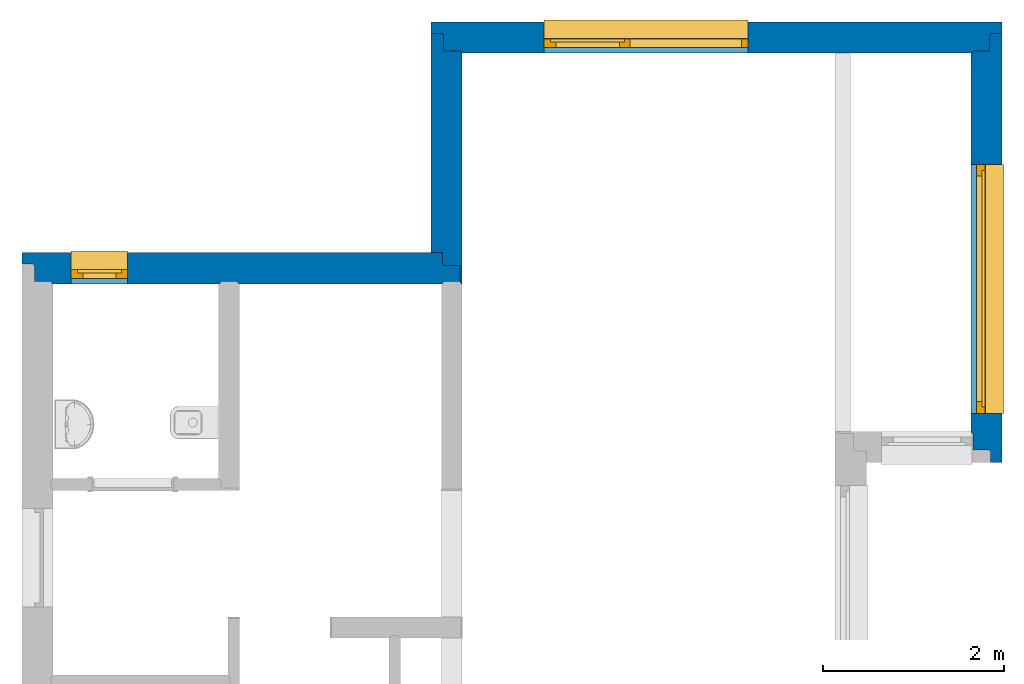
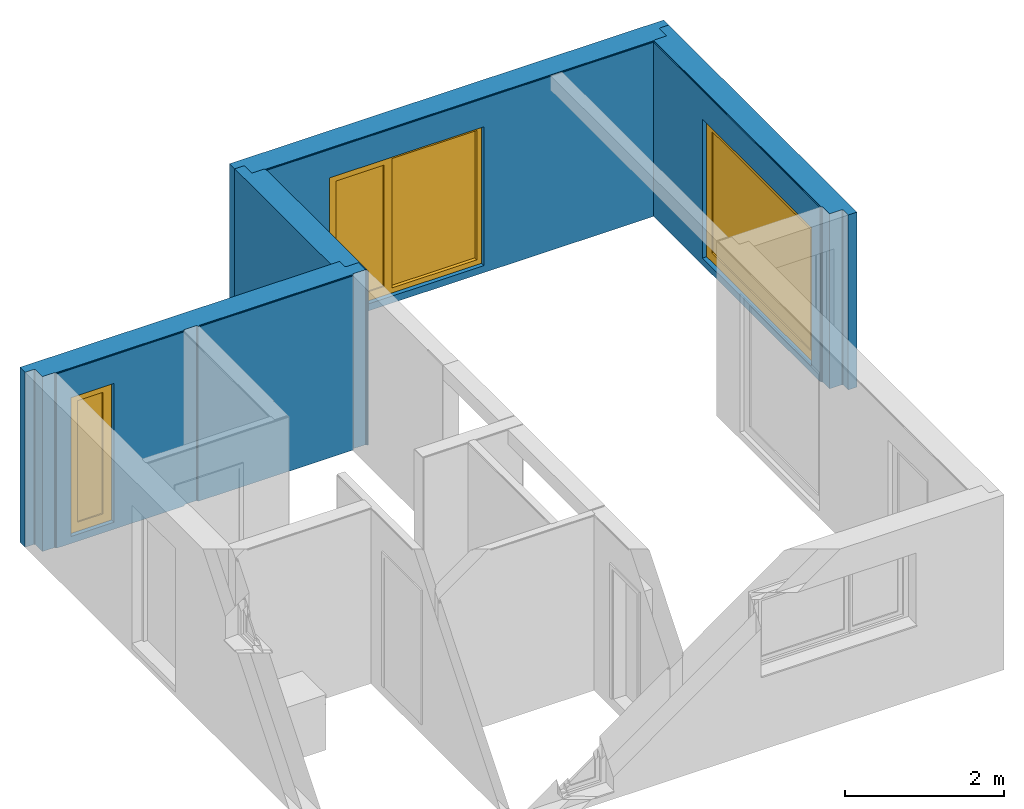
# One storey, part 5 of 6: 4 walls, 3 windows, 3 openings.
"""IFC2X3 building model written with IfcOpenShell, lengths in millimetres."""

from ifc_helpers import new_model, entity, si_unit, converted_unit, derived_unit, money_unit, direction, frame, origin_with_axes, place, context, subcontext, project, spatial, open_shell, faceted_brep, surface_model, material, material_list, type_object, element, fill, save


model = new_model("IFC2X3")

# Units and contexts
model_context = context("Model", 3, precision=0.01, world=origin_with_axes(), true_north=direction((0.0, 1.0)))
body_context = subcontext(model_context, "Body", "Model", "MODEL_VIEW")
ifc_project = project(units=[si_unit("LENGTHUNIT", "METRE", prefix="MILLI"), si_unit("AREAUNIT", "SQUARE_METRE"), si_unit("VOLUMEUNIT", "CUBIC_METRE"), converted_unit("PLANEANGLEUNIT", "DEGREE", entity("IfcPlaneAngleMeasure", 0.0174532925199), si_unit("PLANEANGLEUNIT", "RADIAN"), dimensions=[0, 0, 0, 0, 0, 0, 0]), si_unit("SOLIDANGLEUNIT", "STERADIAN"), money_unit("USD"), converted_unit("TIMEUNIT", "Year", entity("IfcTimeMeasure", 31556926.0), si_unit("TIMEUNIT", "SECOND"), dimensions=[0, 0, 1, 0, 0, 0, 0]), si_unit("MASSUNIT", "GRAM", prefix="KILO"), si_unit("THERMODYNAMICTEMPERATUREUNIT", "DEGREE_CELSIUS"), si_unit("LUMINOUSINTENSITYUNIT", "LUMEN"), si_unit("ENERGYUNIT", "JOULE", prefix="MEGA"), derived_unit("THERMALCONDUCTANCEUNIT", [(si_unit("POWERUNIT", "WATT"), 1), (si_unit("LENGTHUNIT", "METRE"), -1), (si_unit("THERMODYNAMICTEMPERATUREUNIT", "KELVIN"), -1)]), derived_unit("SPECIFICHEATCAPACITYUNIT", [(si_unit("ENERGYUNIT", "JOULE"), 1), (si_unit("MASSUNIT", "GRAM", prefix="KILO"), -1), (si_unit("THERMODYNAMICTEMPERATUREUNIT", "KELVIN"), -1)]), derived_unit("MASSDENSITYUNIT", [(si_unit("MASSUNIT", "GRAM", prefix="KILO"), 1), (si_unit("VOLUMEUNIT", "CUBIC_METRE"), -1)])], contexts=[model_context])

# Site, building, storey
site_placement = place(None, origin_with_axes())
site = spatial("IfcSite", under=ifc_project, at=site_placement, Name="Lokalizacja", CompositionType="ELEMENT")
building_placement = place(site_placement, origin_with_axes())
building = spatial("IfcBuilding", under=site, at=building_placement, Name="Budynek", CompositionType="ELEMENT")
storey_placement = place(building_placement, origin_with_axes())
storey = spatial("IfcBuildingStorey", under=building, at=storey_placement, Name="EG", CompositionType="ELEMENT", Elevation=0.0)

# Wall, opening, window
ifc_material_1 = material(Name="Płyty styropianowe miękkie")
ifc_material_2 = material(Name="Płyta OSB")
ifc_material_3 = material(Name="Drewno konstrukcyjne")
ifc_material_4 = material(Name="Płyta GK")
ifc_material_list_1 = material_list([ifc_material_1, ifc_material_2, ifc_material_3, ifc_material_2, ifc_material_4])
wall_type = type_object("IfcWallType", Name="002- _dan_SZ_345 345", PredefinedType="NOTDEFINED")
wall_1_placement = place(storey_placement, frame((10140.0, 2550.0, -160.0), z_axis=(0.0, 0.0, 1.0), x_axis=(0.0, -1.0, 0.0)))
wall_1 = element("IfcWall", 1, at=wall_1_placement, inside=storey, type_object=wall_type, material=ifc_material_list_1, Name="SZ1", context=body_context, shape_type="Brep", body=[
    faceted_brep([(4525.0, 345.0, 2690.0), (-217.0, 345.0, 2690.0), (-217.0, 217.0, 2690.0), (4525.0, 217.0, 2690.0), (4525.0, 345.0, 0.0), (-217.0, 345.0, 0.0), (-217.0, 217.0, 0.0), (4525.0, 217.0, 0.0)], [[[0, 1, 2, 3]], [[4, 5, 1, 0]], [[2, 1, 5, 6]], [[3, 2, 6, 7]], [[3, 7, 4, 0]], [[7, 6, 5, 4]]]),
    faceted_brep([(4397.0, 217.0, 2690.0), (-205.0, 217.0, 2690.0), (-205.0, 205.0, 2690.0), (4397.0, 205.0, 2690.0), (4397.0, 217.0, 0.0), (-205.0, 217.0, 0.0), (-205.0, 205.0, 0.0), (4397.0, 205.0, 0.0)], [[[0, 1, 2, 3]], [[4, 5, 1, 0]], [[2, 1, 5, 6]], [[3, 2, 6, 7]], [[3, 7, 4, 0]], [[7, 6, 5, 4]]]),
    faceted_brep([(4385.0, 205.0, 2690.0), (-25.0, 205.0, 2690.0), (-25.0, 25.0, 2690.0), (4385.0, 25.0, 2690.0), (4385.0, 205.0, 0.0), (-25.0, 205.0, 0.0), (-25.0, 25.0, 0.0), (4385.0, 25.0, 0.0)], [[[0, 1, 2, 3]], [[4, 5, 1, 0]], [[2, 1, 5, 6]], [[3, 2, 6, 7]], [[3, 7, 4, 0]], [[7, 6, 5, 4]]]),
    faceted_brep([(4205.0, 25.0, 2690.0), (-13.0, 25.0, 2690.0), (-13.0, 13.0, 2690.0), (4205.0, 13.0, 2690.0), (4205.0, 25.0, 0.0), (-13.0, 25.0, 0.0), (-13.0, 13.0, 0.0), (4205.0, 13.0, 0.0)], [[[0, 1, 2, 3]], [[4, 5, 1, 0]], [[2, 1, 5, 6]], [[3, 2, 6, 7]], [[3, 7, 4, 0]], [[7, 6, 5, 4]]]),
    faceted_brep([(0.0, 0.0, 2678.0), (0.0, 13.0, 2678.0), (0.0, 13.0, 0.0), (0.0, 0.0, 0.0), (4193.0, 13.0, 2678.0), (4193.0, 0.0, 2678.0), (4193.0, 13.0, 0.0), (4193.0, 0.0, 0.0)], [[[0, 1, 2, 3]], [[4, 1, 0, 5]], [[1, 4, 6, 2]], [[6, 7, 3, 2]], [[5, 0, 3, 7]], [[4, 5, 7, 6]]]),
])
opening_1_placement = place(wall_1_placement, frame((2605.0, 0.0, 107.0), z_axis=(0.0, 0.0, 1.0), x_axis=(1.0, 0.0, 0.0)))
opening_1 = element("IfcOpeningElement", 2, at=opening_1_placement, cuts=wall_1, context=body_context, shape_type="Brep", body=[
    faceted_brep([(-1375.0, 690.0, 2135.0), (-1375.0, 690.0, 0.0), (-1375.0, 157.0, 0.0), (-1375.0, 157.0, 2135.0), (1375.0, 690.0, 2135.0), (1375.0, 690.0, 0.0), (1375.0, 157.0, 0.0), (1375.0, 157.0, 2135.0)], [[[0, 1, 2, 3]], [[0, 4, 5, 1]], [[1, 5, 6, 2]], [[3, 2, 6, 7]], [[4, 0, 3, 7]], [[5, 4, 7, 6]]]),
    faceted_brep([(-1375.0, -345.0, 0.0), (-1375.0, -345.0, 2135.0), (-1375.0, 157.0, 2135.0), (-1375.0, 157.0, 0.0), (1375.0, -345.0, 0.0), (1375.0, -345.0, 2135.0), (1375.0, 157.0, 2135.0), (1375.0, 157.0, 0.0)], [[[0, 1, 2, 3]], [[0, 4, 5, 1]], [[1, 5, 6, 2]], [[3, 2, 6, 7]], [[4, 0, 3, 7]], [[5, 4, 7, 6]]]),
])
window_style_1 = type_object("IfcWindowStyle", Name="Okno 24", ConstructionType="NOTDEFINED", OperationType="SINGLE_PANEL", ParameterTakesPrecedence=False, Sizeable=False)
window_1_placement = place(opening_1_placement, frame((1365.0, 0.0, 0.0), z_axis=(0.0, 0.0, 1.0), x_axis=(-1.0, 0.0, 0.0)))
window_1 = element("IfcWindow", 3, at=window_1_placement, inside=storey, type_object=window_style_1, OverallHeight=2135.0, OverallWidth=2750.0, context=body_context, shape_type="SurfaceModel", body=[
    surface_model("IfcShellBasedSurfaceModel", [(-10.0, -158.0, 50.0), (-10.0, -158.0, 40.0), (2740.0, -158.0, 40.0), (2740.0, -158.0, 50.0), (-10.0, -365.0, 28.9361702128), (2740.0, -365.0, 28.9361702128), (-10.0, -365.0, 8.93617021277), (2740.0, -365.0, 8.93617021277), (-10.0, -355.0, 18.9361702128), (2740.0, -355.0, 18.9361702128)], [open_shell([[[0, 1, 2, 3]], [[1, 4, 5, 2]], [[4, 6, 7, 5]], [[6, 8, 9, 7]]])]),
    faceted_brep([(59.9, -61.0, 2065.0), (-10.0, -61.0, 2065.0), (-10.0, -157.0, 2065.0), (60.0, -157.0, 2065.0), (60.0, -121.0, 2065.0), (59.9, -121.0, 2065.0), (59.9, -61.0, 77.0), (-10.0, -61.0, 77.0), (-10.0, -157.0, 77.0), (60.0, -157.0, 77.0), (60.0, -121.0, 77.0), (59.9, -121.0, 77.0)], [[[0, 1, 2, 3, 4, 5]], [[6, 7, 1, 0]], [[1, 7, 8, 2]], [[2, 8, 9, 3]], [[4, 3, 9, 10]], [[10, 11, 5, 4]], [[5, 11, 6, 0]], [[11, 10, 9, 8, 7, 6]]]),
    faceted_brep([(2670.0, -121.0, 2065.0), (2670.0, -157.0, 2065.0), (2740.0, -157.0, 2065.0), (2740.0, -61.0, 2065.0), (2670.1, -61.0, 2065.0), (2670.1, -121.0, 2065.0), (2670.0, -121.0, 77.0), (2670.0, -157.0, 77.0), (2740.0, -157.0, 77.0), (2740.0, -61.0, 77.0), (2670.1, -61.0, 77.0), (2670.1, -121.0, 77.0)], [[[0, 1, 2, 3, 4, 5]], [[6, 7, 1, 0]], [[8, 2, 1, 7]], [[9, 3, 2, 8]], [[4, 3, 9, 10]], [[10, 11, 5, 4]], [[5, 11, 6, 0]], [[11, 10, 9, 8, 7, 6]]]),
    faceted_brep([(2670.0, -121.0, 77.0), (2670.0, -157.0, 77.0), (2740.0, -157.0, 77.0), (2740.0, -61.0, 77.0), (2670.1, -61.0, 77.0), (2670.1, -121.0, 77.0), (60.0, -121.0, 77.0), (60.0, -157.0, 77.0), (-10.0, -157.0, 77.0), (-10.0, -157.0, 0.0), (2740.0, -157.0, 0.0), (2740.0, -61.0, 0.0), (59.9, -61.0, 76.9), (2670.1, -61.0, 76.9), (-10.0, -61.0, 0.0), (-10.0, -61.0, 77.0), (59.9, -61.0, 77.0), (2670.1, -121.0, 76.9), (59.9, -121.0, 76.9), (59.9, -121.0, 77.0)], [[[0, 1, 2, 3, 4, 5]], [[6, 7, 1, 0]], [[8, 9, 10, 2, 1, 7]], [[11, 3, 2, 10]], [[12, 13, 4, 3, 11, 14, 15, 16]], [[13, 17, 5, 4]], [[5, 17, 18, 19, 6, 0]], [[19, 16, 15, 8, 7, 6]], [[15, 14, 9, 8]], [[14, 11, 10, 9]], [[12, 18, 17, 13]], [[19, 18, 12, 16]]]),
    faceted_brep([(59.9, -61.0, 2065.0), (-10.0, -61.0, 2065.0), (-10.0, -61.0, 2135.0), (2740.0, -61.0, 2135.0), (2740.0, -61.0, 2065.0), (2670.1, -61.0, 2065.0), (2670.1, -61.0, 2065.1), (59.9, -61.0, 2065.1), (59.9, -121.0, 2065.0), (60.0, -121.0, 2065.0), (60.0, -157.0, 2065.0), (-10.0, -157.0, 2065.0), (-10.0, -157.0, 2135.0), (2740.0, -157.0, 2135.0), (2740.0, -157.0, 2065.0), (2670.1, -121.0, 2065.0), (2670.0, -157.0, 2065.0), (2670.0, -121.0, 2065.0), (2670.1, -121.0, 2065.1), (59.9, -121.0, 2065.1)], [[[0, 1, 2, 3, 4, 5, 6, 7]], [[8, 9, 10, 11, 1, 0]], [[2, 1, 11, 12]], [[3, 2, 12, 13]], [[4, 3, 13, 14]], [[15, 5, 4, 14, 16, 17]], [[5, 15, 18, 6]], [[6, 18, 19, 7]], [[7, 19, 8, 0]], [[17, 9, 8, 19, 18, 15]], [[17, 16, 10, 9]], [[14, 13, 12, 11, 10, 16]]]),
    faceted_brep([(119.9, -121.0, 2005.1), (119.9, -61.0, 2005.1), (59.9, -61.0, 2005.1), (59.9, -121.0, 2005.1), (119.9, -121.0, 136.9), (119.9, -61.0, 136.9), (59.9, -61.0, 136.9), (59.9, -121.0, 136.9)], [[[0, 1, 2, 3]], [[4, 5, 1, 0]], [[1, 5, 6, 2]], [[3, 2, 6, 7]], [[0, 3, 7, 4]], [[7, 6, 5, 4]]]),
    faceted_brep([(2610.1, -121.0, 136.9), (2610.1, -61.0, 136.9), (2670.1, -61.0, 136.9), (2670.1, -121.0, 136.9), (2610.1, -121.0, 2005.1), (2610.1, -61.0, 2005.1), (2670.1, -61.0, 2005.1), (2670.1, -121.0, 2005.1)], [[[0, 1, 2, 3]], [[4, 5, 1, 0]], [[1, 5, 6, 2]], [[3, 2, 6, 7]], [[0, 3, 7, 4]], [[7, 6, 5, 4]]]),
    faceted_brep([(2670.1, -121.0, 76.9), (2670.1, -61.0, 76.9), (2670.1, -61.0, 136.9), (2670.1, -121.0, 136.9), (59.9, -121.0, 76.9), (59.9, -61.0, 76.9), (59.9, -61.0, 136.9), (119.9, -61.0, 136.9), (2610.1, -61.0, 136.9), (2610.1, -121.0, 136.9), (119.9, -121.0, 136.9), (59.9, -121.0, 136.9)], [[[0, 1, 2, 3]], [[4, 5, 1, 0]], [[1, 5, 6, 7, 8, 2]], [[3, 2, 8, 9]], [[0, 3, 9, 10, 11, 4]], [[11, 6, 5, 4]], [[10, 7, 6, 11]], [[9, 8, 7, 10]]]),
    faceted_brep([(59.9, -121.0, 2065.1), (59.9, -61.0, 2065.1), (59.9, -61.0, 2005.1), (59.9, -121.0, 2005.1), (2670.1, -121.0, 2065.1), (2670.1, -61.0, 2065.1), (2670.1, -61.0, 2005.1), (2610.1, -61.0, 2005.1), (119.9, -61.0, 2005.1), (119.9, -121.0, 2005.1), (2610.1, -121.0, 2005.1), (2670.1, -121.0, 2005.1)], [[[0, 1, 2, 3]], [[4, 5, 1, 0]], [[1, 5, 6, 7, 8, 2]], [[3, 2, 8, 9]], [[0, 3, 9, 10, 11, 4]], [[11, 6, 5, 4]], [[10, 7, 6, 11]], [[9, 8, 7, 10]]]),
    surface_model("IfcShellBasedSurfaceModel", [(119.9, -101.0, 136.9), (2610.1, -101.0, 136.9), (2610.1, -101.0, 2005.1), (119.9, -101.0, 2005.1)], [open_shell([[[0, 1, 2, 3]]])]),
    surface_model("IfcShellBasedSurfaceModel", [(119.9, -81.0, 136.9), (119.9, -81.0, 2005.1), (2610.1, -81.0, 2005.1), (2610.1, -81.0, 136.9)], [open_shell([[[0, 1, 2, 3]]])]),
])
fill(opening_1, window_1)

wall_2_placement = place(storey_placement, frame((4520.0, 2550.0, -160.0), z_axis=(0.0, 0.0, 1.0), x_axis=(1.0, 0.0, 0.0)))
wall_2 = element("IfcWall", 4, at=wall_2_placement, inside=storey, type_object=wall_type, material=ifc_material_list_1, Name="SZ1", context=body_context, shape_type="Brep", body=[
    faceted_brep([(5965.0, 345.0, 2690.0), (-345.0, 345.0, 2690.0), (-345.0, 217.0, 2690.0), (5965.0, 217.0, 2690.0), (5965.0, 345.0, 0.0), (-345.0, 345.0, 0.0), (-345.0, 217.0, 0.0), (5965.0, 217.0, 0.0)], [[[0, 1, 2, 3]], [[4, 5, 1, 0]], [[2, 1, 5, 6]], [[3, 2, 6, 7]], [[3, 7, 4, 0]], [[7, 6, 5, 4]]]),
    faceted_brep([(5837.0, 217.0, 2690.0), (-217.0, 217.0, 2690.0), (-217.0, 205.0, 2690.0), (5837.0, 205.0, 2690.0), (5837.0, 217.0, 0.0), (-217.0, 217.0, 0.0), (-217.0, 205.0, 0.0), (5837.0, 205.0, 0.0)], [[[0, 1, 2, 3]], [[4, 5, 1, 0]], [[2, 1, 5, 6]], [[3, 2, 6, 7]], [[3, 7, 4, 0]], [[7, 6, 5, 4]]]),
    faceted_brep([(5825.0, 205.0, 2690.0), (-205.0, 205.0, 2690.0), (-205.0, 25.0, 2690.0), (5825.0, 25.0, 2690.0), (5825.0, 205.0, 0.0), (-205.0, 205.0, 0.0), (-205.0, 25.0, 0.0), (5825.0, 25.0, 0.0)], [[[0, 1, 2, 3]], [[4, 5, 1, 0]], [[2, 1, 5, 6]], [[3, 2, 6, 7]], [[3, 7, 4, 0]], [[7, 6, 5, 4]]]),
    faceted_brep([(5645.0, 25.0, 2690.0), (-25.0, 25.0, 2690.0), (-25.0, 13.0, 2690.0), (5645.0, 13.0, 2690.0), (5645.0, 25.0, 0.0), (-25.0, 25.0, 0.0), (-25.0, 13.0, 0.0), (5645.0, 13.0, 0.0)], [[[0, 1, 2, 3]], [[4, 5, 1, 0]], [[2, 1, 5, 6]], [[3, 2, 6, 7]], [[3, 7, 4, 0]], [[7, 6, 5, 4]]]),
    faceted_brep([(-13.0, 13.0, 2678.0), (5633.0, 13.0, 2678.0), (5633.0, 13.0, 0.0), (-13.0, 13.0, 0.0), (5633.0, 0.0, 2678.0), (-13.0, 0.0, 2678.0), (5633.0, 0.0, 0.0), (-13.0, 0.0, 0.0)], [[[0, 1, 2, 3]], [[4, 1, 0, 5]], [[1, 4, 6, 2]], [[2, 6, 7, 3]], [[5, 0, 3, 7]], [[4, 5, 7, 6]]]),
])
opening_2_placement = place(wall_2_placement, frame((2030.0, 0.0, 107.0), z_axis=(0.0, 0.0, 1.0), x_axis=(1.0, 0.0, 0.0)))
opening_2 = element("IfcOpeningElement", 5, at=opening_2_placement, cuts=wall_2, context=body_context, shape_type="Brep", body=[
    faceted_brep([(1125.0, 157.0, 2135.0), (1125.0, 157.0, 0.0), (1125.0, 690.0, 0.0), (1125.0, 690.0, 2135.0), (-1125.0, 157.0, 2135.0), (-1125.0, 157.0, 0.0), (-1125.0, 690.0, 0.0), (-1125.0, 690.0, 2135.0)], [[[0, 1, 2, 3]], [[0, 4, 5, 1]], [[1, 5, 6, 2]], [[3, 2, 6, 7]], [[4, 0, 3, 7]], [[5, 4, 7, 6]]]),
    faceted_brep([(1125.0, 157.0, 0.0), (1125.0, 157.0, 2135.0), (1125.0, -345.0, 2135.0), (1125.0, -345.0, 0.0), (-1125.0, 157.0, 0.0), (-1125.0, 157.0, 2135.0), (-1125.0, -345.0, 2135.0), (-1125.0, -345.0, 0.0)], [[[0, 1, 2, 3]], [[0, 4, 5, 1]], [[1, 5, 6, 2]], [[3, 2, 6, 7]], [[4, 0, 3, 7]], [[5, 4, 7, 6]]]),
])
window_style_2 = type_object("IfcWindowStyle", Name="Okno podwójne 24", ConstructionType="NOTDEFINED", OperationType="DOUBLE_PANEL_VERTICAL", ParameterTakesPrecedence=False, Sizeable=False)
window_2_placement = place(opening_2_placement, frame((1115.0, 0.0, 0.0), z_axis=(0.0, 0.0, 1.0), x_axis=(-1.0, 0.0, 0.0)))
window_2 = element("IfcWindow", 6, at=window_2_placement, inside=storey, type_object=window_style_2, OverallHeight=2135.0, OverallWidth=2250.0, context=body_context, shape_type="SurfaceModel", body=[
    surface_model("IfcShellBasedSurfaceModel", [(2240.0, -158.0, 50.0), (-10.0, -158.0, 50.0), (-10.0, -158.0, 40.0), (2240.0, -158.0, 40.0), (-10.0, -365.0, 28.9361702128), (2240.0, -365.0, 28.9361702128), (-10.0, -365.0, 8.93617021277), (2240.0, -365.0, 8.93617021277), (-10.0, -355.0, 18.9361702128), (2240.0, -355.0, 18.9361702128)], [open_shell([[[0, 1, 2, 3]], [[3, 2, 4, 5]], [[5, 4, 6, 7]], [[7, 6, 8, 9]]])]),
    faceted_brep([(2170.1, -61.0, 2065.0), (2170.1, -121.0, 2065.0), (2170.0, -121.0, 2065.0), (2170.0, -157.0, 2065.0), (2240.0, -157.0, 2065.0), (2240.0, -61.0, 2065.0), (2170.1, -61.0, 77.0), (2170.1, -121.0, 77.0), (2170.0, -121.0, 77.0), (2170.0, -157.0, 77.0), (2240.0, -157.0, 77.0), (2240.0, -61.0, 77.0)], [[[0, 1, 2, 3, 4, 5]], [[1, 0, 6, 7]], [[8, 2, 1, 7]], [[2, 8, 9, 3]], [[4, 3, 9, 10]], [[5, 4, 10, 11]], [[6, 0, 5, 11]], [[7, 6, 11, 10, 9, 8]]]),
    faceted_brep([(1350.0, -121.0, 2065.0), (1349.9, -121.0, 2065.0), (1349.9, -61.0, 2065.0), (1290.0, -61.0, 2065.0), (1290.0, -157.0, 2065.0), (1350.0, -157.0, 2065.0), (1350.0, -121.0, 77.0), (1349.9, -121.0, 77.0), (1349.9, -61.0, 77.0), (1290.0, -61.0, 77.0), (1290.0, -157.0, 77.0), (1350.0, -157.0, 77.0)], [[[0, 1, 2, 3, 4, 5]], [[1, 0, 6, 7]], [[8, 2, 1, 7]], [[2, 8, 9, 3]], [[9, 10, 4, 3]], [[10, 11, 5, 4]], [[6, 0, 5, 11]], [[7, 6, 11, 10, 9, 8]]]),
    faceted_brep([(1350.0, -121.0, 77.0), (1349.9, -121.0, 77.0), (1349.9, -61.0, 77.0), (1290.0, -61.0, 77.0), (1290.0, -157.0, 77.0), (1350.0, -157.0, 77.0), (2170.0, -121.0, 77.0), (2170.1, -121.0, 77.0), (2170.1, -121.0, 76.9), (1349.9, -121.0, 76.9), (1349.9, -61.0, 76.9), (2170.1, -61.0, 76.9), (2170.1, -61.0, 77.0), (2240.0, -61.0, 77.0), (2240.0, -61.0, 0.0), (-10.0, -61.0, 0.0), (-10.0, -61.0, 77.0), (60.0, -61.0, 77.0), (60.0, -157.0, 77.0), (2240.0, -157.0, 77.0), (2170.0, -157.0, 77.0), (-10.0, -157.0, 77.0), (-10.0, -157.0, 0.0), (2240.0, -157.0, 0.0)], [[[0, 1, 2, 3, 4, 5]], [[1, 0, 6, 7, 8, 9]], [[10, 2, 1, 9]], [[11, 12, 13, 14, 15, 16, 17, 3, 2, 10]], [[17, 18, 4, 3]], [[19, 20, 5, 4, 18, 21, 22, 23]], [[6, 0, 5, 20]], [[7, 6, 20, 19, 13, 12]], [[7, 12, 11, 8]], [[11, 10, 9, 8]], [[13, 19, 23, 14]], [[14, 23, 22, 15]], [[15, 22, 21, 16]], [[16, 21, 18, 17]]]),
    faceted_brep([(2170.1, -61.0, 2065.0), (2170.1, -61.0, 2065.1), (1349.9, -61.0, 2065.1), (1349.9, -61.0, 2065.0), (1290.0, -61.0, 2065.0), (60.0, -61.0, 2065.0), (-10.0, -61.0, 2065.0), (-10.0, -61.0, 2135.0), (2240.0, -61.0, 2135.0), (2240.0, -61.0, 2065.0), (2170.1, -121.0, 2065.0), (2170.1, -121.0, 2065.1), (1349.9, -121.0, 2065.1), (1349.9, -121.0, 2065.0), (1350.0, -121.0, 2065.0), (1350.0, -157.0, 2065.0), (1290.0, -157.0, 2065.0), (60.0, -157.0, 2065.0), (-10.0, -157.0, 2065.0), (-10.0, -157.0, 2135.0), (2240.0, -157.0, 2135.0), (2240.0, -157.0, 2065.0), (2170.0, -157.0, 2065.0), (2170.0, -121.0, 2065.0)], [[[0, 1, 2, 3, 4, 5, 6, 7, 8, 9]], [[1, 0, 10, 11]], [[2, 1, 11, 12]], [[3, 2, 12, 13]], [[13, 14, 15, 16, 4, 3]], [[4, 16, 17, 5]], [[5, 17, 18, 6]], [[6, 18, 19, 7]], [[7, 19, 20, 8]], [[8, 20, 21, 9]], [[10, 0, 9, 21, 22, 23]], [[14, 13, 12, 11, 10, 23]], [[14, 23, 22, 15]], [[16, 15, 22, 21, 20, 19, 18, 17]]]),
    faceted_brep([(60.0, -157.0, 77.0), (-10.0, -157.0, 77.0), (-10.0, -61.0, 77.0), (60.0, -61.0, 77.0), (60.0, -157.0, 2065.0), (-10.0, -157.0, 2065.0), (-10.0, -61.0, 2065.0), (60.0, -61.0, 2065.0)], [[[0, 1, 2, 3]], [[0, 4, 5, 1]], [[1, 5, 6, 2]], [[3, 2, 6, 7]], [[4, 0, 3, 7]], [[5, 4, 7, 6]]]),
    faceted_brep([(2110.1, -121.0, 2005.1), (2170.1, -121.0, 2005.1), (2170.1, -61.0, 2005.1), (2110.1, -61.0, 2005.1), (2110.1, -121.0, 136.9), (2170.1, -121.0, 136.9), (2170.1, -61.0, 136.9), (2110.1, -61.0, 136.9)], [[[0, 1, 2, 3]], [[0, 4, 5, 1]], [[1, 5, 6, 2]], [[3, 2, 6, 7]], [[4, 0, 3, 7]], [[5, 4, 7, 6]]]),
    faceted_brep([(1409.9, -121.0, 136.9), (1349.9, -121.0, 136.9), (1349.9, -61.0, 136.9), (1409.9, -61.0, 136.9), (1409.9, -121.0, 2005.1), (1349.9, -121.0, 2005.1), (1349.9, -61.0, 2005.1), (1409.9, -61.0, 2005.1)], [[[0, 1, 2, 3]], [[0, 4, 5, 1]], [[1, 5, 6, 2]], [[3, 2, 6, 7]], [[4, 0, 3, 7]], [[5, 4, 7, 6]]]),
    faceted_brep([(1349.9, -121.0, 76.9), (1349.9, -121.0, 136.9), (1349.9, -61.0, 136.9), (1349.9, -61.0, 76.9), (2170.1, -121.0, 76.9), (2170.1, -121.0, 136.9), (2110.1, -121.0, 136.9), (1409.9, -121.0, 136.9), (1409.9, -61.0, 136.9), (2110.1, -61.0, 136.9), (2170.1, -61.0, 136.9), (2170.1, -61.0, 76.9)], [[[0, 1, 2, 3]], [[0, 4, 5, 6, 7, 1]], [[1, 7, 8, 2]], [[3, 2, 8, 9, 10, 11]], [[4, 0, 3, 11]], [[5, 4, 11, 10]], [[6, 5, 10, 9]], [[7, 6, 9, 8]]]),
    faceted_brep([(2170.1, -121.0, 2065.1), (2170.1, -121.0, 2005.1), (2170.1, -61.0, 2005.1), (2170.1, -61.0, 2065.1), (1349.9, -121.0, 2065.1), (1349.9, -121.0, 2005.1), (1409.9, -121.0, 2005.1), (2110.1, -121.0, 2005.1), (2110.1, -61.0, 2005.1), (1409.9, -61.0, 2005.1), (1349.9, -61.0, 2005.1), (1349.9, -61.0, 2065.1)], [[[0, 1, 2, 3]], [[0, 4, 5, 6, 7, 1]], [[1, 7, 8, 2]], [[3, 2, 8, 9, 10, 11]], [[4, 0, 3, 11]], [[5, 4, 11, 10]], [[6, 5, 10, 9]], [[7, 6, 9, 8]]]),
    surface_model("IfcShellBasedSurfaceModel", [(2110.1, -101.0, 136.9), (2110.1, -101.0, 2005.1), (1409.9, -101.0, 2005.1), (1409.9, -101.0, 136.9)], [open_shell([[[0, 1, 2, 3]]])]),
    surface_model("IfcShellBasedSurfaceModel", [(2110.1, -81.0, 136.9), (1409.9, -81.0, 136.9), (1409.9, -81.0, 2005.1), (2110.1, -81.0, 2005.1)], [open_shell([[[0, 1, 2, 3]]])]),
    surface_model("IfcShellBasedSurfaceModel", [(1290.0, -131.0, 77.0), (1290.0, -131.0, 2065.0), (60.0, -131.0, 2065.0), (60.0, -131.0, 77.0)], [open_shell([[[0, 1, 2, 3]]])]),
    surface_model("IfcShellBasedSurfaceModel", [(1290.0, -111.0, 77.0), (60.0, -111.0, 77.0), (60.0, -111.0, 2065.0), (1290.0, -111.0, 2065.0)], [open_shell([[[0, 1, 2, 3]]])]),
])
fill(opening_2, window_2)

# Wall
ifc_material_list_2 = material_list([ifc_material_4, ifc_material_2, ifc_material_3, ifc_material_2, ifc_material_1])
wall_3_placement = place(storey_placement, frame((4520.0, 2550.0, -160.0), z_axis=(0.0, 0.0, 1.0), x_axis=(0.0, -1.0, 0.0)))
element("IfcWall", 7, at=wall_3_placement, inside=storey, type_object=wall_type, material=ifc_material_list_2, Name="SZ1", context=body_context, shape_type="Brep", body=[
    faceted_brep([(0.0, -13.0, 2678.0), (0.0, 0.0, 2678.0), (0.0, 0.0, 0.0), (0.0, -13.0, 0.0), (2537.0, -13.0, 2678.0), (2537.0, 0.0, 2678.0), (2537.0, 0.0, 0.0), (2537.0, -13.0, 0.0)], [[[0, 1, 2, 3]], [[1, 0, 4, 5]], [[1, 5, 6, 2]], [[6, 7, 3, 2]], [[0, 3, 7, 4]], [[5, 4, 7, 6]]]),
    faceted_brep([(2525.0, -25.0, 0.0), (-13.0, -25.0, 0.0), (-13.0, -13.0, 0.0), (2525.0, -13.0, 0.0), (2525.0, -25.0, 2690.0), (-13.0, -25.0, 2690.0), (-13.0, -13.0, 2690.0), (2525.0, -13.0, 2690.0)], [[[0, 1, 2, 3]], [[4, 5, 1, 0]], [[2, 1, 5, 6]], [[3, 2, 6, 7]], [[3, 7, 4, 0]], [[7, 6, 5, 4]]]),
    faceted_brep([(2345.0, -205.0, 0.0), (-25.0, -205.0, 0.0), (-25.0, -25.0, 0.0), (2345.0, -25.0, 0.0), (2345.0, -205.0, 2690.0), (-25.0, -205.0, 2690.0), (-25.0, -25.0, 2690.0), (2345.0, -25.0, 2690.0)], [[[0, 1, 2, 3]], [[4, 5, 1, 0]], [[2, 1, 5, 6]], [[3, 2, 6, 7]], [[3, 7, 4, 0]], [[7, 6, 5, 4]]]),
    faceted_brep([(2333.0, -217.0, 0.0), (-205.0, -217.0, 0.0), (-205.0, -205.0, 0.0), (2333.0, -205.0, 0.0), (2333.0, -217.0, 2690.0), (-205.0, -217.0, 2690.0), (-205.0, -205.0, 2690.0), (2333.0, -205.0, 2690.0)], [[[0, 1, 2, 3]], [[4, 5, 1, 0]], [[2, 1, 5, 6]], [[3, 2, 6, 7]], [[3, 7, 4, 0]], [[7, 6, 5, 4]]]),
    faceted_brep([(2205.0, -345.0, 0.0), (-217.0, -345.0, 0.0), (-217.0, -217.0, 0.0), (2205.0, -217.0, 0.0), (2205.0, -345.0, 2690.0), (-217.0, -345.0, 2690.0), (-217.0, -217.0, 2690.0), (2205.0, -217.0, 2690.0)], [[[0, 1, 2, 3]], [[4, 5, 1, 0]], [[2, 1, 5, 6]], [[3, 2, 6, 7]], [[3, 7, 4, 0]], [[7, 6, 5, 4]]]),
])

# Wall, opening, window
wall_4_placement = place(storey_placement, frame((0.0, 0.0, -160.0), z_axis=(0.0, 0.0, 1.0), x_axis=(1.0, 0.0, 0.0)))
wall_4 = element("IfcWall", 8, at=wall_4_placement, inside=storey, type_object=wall_type, material=ifc_material_list_1, Name="SZ1", context=body_context, shape_type="Brep", body=[
    faceted_brep([(4303.0, 345.0, 2690.0), (-345.0, 345.0, 2690.0), (-345.0, 217.0, 2690.0), (4303.0, 217.0, 2690.0), (4303.0, 345.0, 0.0), (-345.0, 345.0, 0.0), (-345.0, 217.0, 0.0), (4303.0, 217.0, 0.0)], [[[0, 1, 2, 3]], [[4, 5, 1, 0]], [[2, 1, 5, 6]], [[3, 2, 6, 7]], [[3, 7, 4, 0]], [[7, 6, 5, 4]]]),
    faceted_brep([(4315.0, 217.0, 2690.0), (-217.0, 217.0, 2690.0), (-217.0, 205.0, 2690.0), (4315.0, 205.0, 2690.0), (4315.0, 217.0, 0.0), (-217.0, 217.0, 0.0), (-217.0, 205.0, 0.0), (4315.0, 205.0, 0.0)], [[[0, 1, 2, 3]], [[4, 5, 1, 0]], [[2, 1, 5, 6]], [[3, 2, 6, 7]], [[3, 7, 4, 0]], [[7, 6, 5, 4]]]),
    faceted_brep([(4495.0, 205.0, 2690.0), (-205.0, 205.0, 2690.0), (-205.0, 25.0, 2690.0), (4495.0, 25.0, 2690.0), (4495.0, 205.0, 0.0), (-205.0, 205.0, 0.0), (-205.0, 25.0, 0.0), (4495.0, 25.0, 0.0)], [[[0, 1, 2, 3]], [[4, 5, 1, 0]], [[2, 1, 5, 6]], [[3, 2, 6, 7]], [[3, 7, 4, 0]], [[7, 6, 5, 4]]]),
    faceted_brep([(4507.0, 25.0, 2690.0), (4495.0, 25.0, 2690.0), (4495.0, 13.0, 2690.0), (4507.0, 13.0, 2690.0), (4507.0, 25.0, 0.0), (4495.0, 25.0, 0.0), (4495.0, 13.0, 0.0), (4507.0, 13.0, 0.0)], [[[0, 1, 2, 3]], [[4, 5, 1, 0]], [[2, 1, 5, 6]], [[3, 2, 6, 7]], [[3, 7, 4, 0]], [[7, 6, 5, 4]]]),
    faceted_brep([(4315.0, 25.0, 2690.0), (2035.0, 25.0, 2690.0), (2035.0, 13.0, 2690.0), (4315.0, 13.0, 2690.0), (4315.0, 25.0, 0.0), (2035.0, 25.0, 0.0), (2035.0, 13.0, 0.0), (4315.0, 13.0, 0.0)], [[[0, 1, 2, 3]], [[4, 5, 1, 0]], [[2, 1, 5, 6]], [[3, 2, 6, 7]], [[3, 7, 4, 0]], [[7, 6, 5, 4]]]),
    faceted_brep([(1855.0, 25.0, 2690.0), (-25.0, 25.0, 2690.0), (-25.0, 13.0, 2690.0), (1855.0, 13.0, 2690.0), (1855.0, 25.0, 0.0), (-25.0, 25.0, 0.0), (-25.0, 13.0, 0.0), (1855.0, 13.0, 0.0)], [[[0, 1, 2, 3]], [[4, 5, 1, 0]], [[2, 1, 5, 6]], [[3, 2, 6, 7]], [[3, 7, 4, 0]], [[7, 6, 5, 4]]]),
    faceted_brep([(4507.0, 13.0, 2678.0), (4520.0, 13.0, 2678.0), (4520.0, 13.0, 0.0), (4507.0, 13.0, 0.0), (4520.0, 0.0, 2678.0), (4507.0, 0.0, 2678.0), (4520.0, 0.0, 0.0), (4507.0, 0.0, 0.0)], [[[0, 1, 2, 3]], [[4, 1, 0, 5]], [[1, 4, 6, 2]], [[2, 6, 7, 3]], [[5, 0, 3, 7]], [[4, 5, 7, 6]]]),
    faceted_brep([(2060.0, 13.0, 2678.0), (4290.0, 13.0, 2678.0), (4290.0, 13.0, 2690.0), (4303.0, 13.0, 2690.0), (4303.0, 13.0, 0.0), (2047.0, 13.0, 0.0), (2047.0, 13.0, 2690.0), (2060.0, 13.0, 2690.0), (2060.0, 0.0, 2678.0), (4290.0, 0.0, 2678.0), (4290.0, 0.0, 2690.0), (4303.0, 0.0, 2690.0), (4303.0, 0.0, 0.0), (2047.0, 0.0, 0.0), (2047.0, 0.0, 2690.0), (2060.0, 0.0, 2690.0)], [[[0, 1, 2, 3, 4, 5, 6, 7]], [[1, 0, 8, 9]], [[10, 2, 1, 9]], [[2, 10, 11, 3]], [[3, 11, 12, 4]], [[4, 12, 13, 5]], [[13, 14, 6, 5]], [[15, 7, 6, 14]], [[0, 7, 15, 8]], [[8, 15, 14, 13, 12, 11, 10, 9]]]),
    faceted_brep([(-13.0, 13.0, 2678.0), (1843.0, 13.0, 2678.0), (1843.0, 13.0, 0.0), (-13.0, 13.0, 0.0), (1843.0, 0.0, 2678.0), (-13.0, 0.0, 2678.0), (1843.0, 0.0, 0.0), (-13.0, 0.0, 0.0)], [[[0, 1, 2, 3]], [[4, 1, 0, 5]], [[1, 4, 6, 2]], [[2, 6, 7, 3]], [[5, 0, 3, 7]], [[4, 5, 7, 6]]]),
])
opening_3_placement = place(wall_4_placement, frame((512.500001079, 0.0, 107.0), z_axis=(0.0, 0.0, 1.0), x_axis=(1.0, 0.0, 0.0)))
opening_3 = element("IfcOpeningElement", 9, at=opening_3_placement, cuts=wall_4, context=body_context, shape_type="Brep", body=[
    faceted_brep([(312.5, 157.0, 2135.0), (312.5, 157.0, 0.0), (312.5, 690.0, 0.0), (312.5, 690.0, 2135.0), (-312.5, 157.0, 2135.0), (-312.5, 157.0, 0.0), (-312.5, 690.0, 0.0), (-312.5, 690.0, 2135.0)], [[[0, 1, 2, 3]], [[0, 4, 5, 1]], [[1, 5, 6, 2]], [[3, 2, 6, 7]], [[4, 0, 3, 7]], [[5, 4, 7, 6]]]),
    faceted_brep([(312.5, 157.0, 0.0), (312.5, 157.0, 2135.0), (312.5, -345.0, 2135.0), (312.5, -345.0, 0.0), (-312.5, 157.0, 0.0), (-312.5, 157.0, 2135.0), (-312.5, -345.0, 2135.0), (-312.5, -345.0, 0.0)], [[[0, 1, 2, 3]], [[0, 4, 5, 1]], [[1, 5, 6, 2]], [[3, 2, 6, 7]], [[4, 0, 3, 7]], [[5, 4, 7, 6]]]),
])
window_style_3 = type_object("IfcWindowStyle", Name="Okno 24", ConstructionType="NOTDEFINED", OperationType="SINGLE_PANEL", ParameterTakesPrecedence=False, Sizeable=False)
window_3_placement = place(opening_3_placement, frame((302.5, 0.0, 0.0), z_axis=(0.0, 0.0, 1.0), x_axis=(-1.0, 0.0, 0.0)))
window_3 = element("IfcWindow", 10, at=window_3_placement, inside=storey, type_object=window_style_3, OverallHeight=2135.0, OverallWidth=625.0, context=body_context, shape_type="SurfaceModel", body=[
    surface_model("IfcShellBasedSurfaceModel", [(615.0, -158.0, 50.0), (-10.0, -158.0, 50.0), (-10.0, -158.0, 40.0), (615.0, -158.0, 40.0), (-10.0, -365.0, 28.9361702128), (615.0, -365.0, 28.9361702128), (-10.0, -365.0, 8.93617021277), (615.0, -365.0, 8.93617021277), (-10.0, -355.0, 18.9361702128), (615.0, -355.0, 18.9361702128)], [open_shell([[[0, 1, 2, 3]], [[3, 2, 4, 5]], [[5, 4, 6, 7]], [[7, 6, 8, 9]]])]),
    faceted_brep([(545.1, -61.0, 2065.0), (545.1, -121.0, 2065.0), (545.0, -121.0, 2065.0), (545.0, -157.0, 2065.0), (615.0, -157.0, 2065.0), (615.0, -61.0, 2065.0), (545.1, -61.0, 77.0), (545.1, -121.0, 77.0), (545.0, -121.0, 77.0), (545.0, -157.0, 77.0), (615.0, -157.0, 77.0), (615.0, -61.0, 77.0)], [[[0, 1, 2, 3, 4, 5]], [[1, 0, 6, 7]], [[8, 2, 1, 7]], [[2, 8, 9, 3]], [[4, 3, 9, 10]], [[5, 4, 10, 11]], [[6, 0, 5, 11]], [[7, 6, 11, 10, 9, 8]]]),
    faceted_brep([(60.0, -121.0, 2065.0), (59.9, -121.0, 2065.0), (59.9, -61.0, 2065.0), (-10.0, -61.0, 2065.0), (-10.0, -157.0, 2065.0), (60.0, -157.0, 2065.0), (60.0, -121.0, 77.0), (59.9, -121.0, 77.0), (59.9, -61.0, 77.0), (-10.0, -61.0, 77.0), (-10.0, -157.0, 77.0), (60.0, -157.0, 77.0)], [[[0, 1, 2, 3, 4, 5]], [[1, 0, 6, 7]], [[8, 2, 1, 7]], [[2, 8, 9, 3]], [[9, 10, 4, 3]], [[10, 11, 5, 4]], [[6, 0, 5, 11]], [[7, 6, 11, 10, 9, 8]]]),
    faceted_brep([(60.0, -121.0, 77.0), (59.9, -121.0, 77.0), (59.9, -61.0, 77.0), (-10.0, -61.0, 77.0), (-10.0, -157.0, 77.0), (60.0, -157.0, 77.0), (545.0, -121.0, 77.0), (545.1, -121.0, 77.0), (545.1, -121.0, 76.9), (59.9, -121.0, 76.9), (59.9, -61.0, 76.9), (545.1, -61.0, 76.9), (545.1, -61.0, 77.0), (615.0, -61.0, 77.0), (615.0, -61.0, 0.0), (-10.0, -61.0, 0.0), (-10.0, -157.0, 0.0), (615.0, -157.0, 77.0), (545.0, -157.0, 77.0), (615.0, -157.0, 0.0)], [[[0, 1, 2, 3, 4, 5]], [[1, 0, 6, 7, 8, 9]], [[10, 2, 1, 9]], [[11, 12, 13, 14, 15, 3, 2, 10]], [[15, 16, 4, 3]], [[17, 18, 5, 4, 16, 19]], [[6, 0, 5, 18]], [[7, 6, 18, 17, 13, 12]], [[7, 12, 11, 8]], [[11, 10, 9, 8]], [[13, 17, 19, 14]], [[14, 19, 16, 15]]]),
    faceted_brep([(545.1, -61.0, 2065.0), (545.1, -61.0, 2065.1), (59.9, -61.0, 2065.1), (59.9, -61.0, 2065.0), (-10.0, -61.0, 2065.0), (-10.0, -61.0, 2135.0), (615.0, -61.0, 2135.0), (615.0, -61.0, 2065.0), (545.1, -121.0, 2065.0), (545.1, -121.0, 2065.1), (59.9, -121.0, 2065.1), (59.9, -121.0, 2065.0), (60.0, -121.0, 2065.0), (60.0, -157.0, 2065.0), (-10.0, -157.0, 2065.0), (-10.0, -157.0, 2135.0), (615.0, -157.0, 2135.0), (615.0, -157.0, 2065.0), (545.0, -157.0, 2065.0), (545.0, -121.0, 2065.0)], [[[0, 1, 2, 3, 4, 5, 6, 7]], [[1, 0, 8, 9]], [[2, 1, 9, 10]], [[3, 2, 10, 11]], [[11, 12, 13, 14, 4, 3]], [[4, 14, 15, 5]], [[5, 15, 16, 6]], [[6, 16, 17, 7]], [[8, 0, 7, 17, 18, 19]], [[12, 11, 10, 9, 8, 19]], [[12, 19, 18, 13]], [[14, 13, 18, 17, 16, 15]]]),
    faceted_brep([(485.1, -121.0, 2005.1), (545.1, -121.0, 2005.1), (545.1, -61.0, 2005.1), (485.1, -61.0, 2005.1), (485.1, -121.0, 136.9), (545.1, -121.0, 136.9), (545.1, -61.0, 136.9), (485.1, -61.0, 136.9)], [[[0, 1, 2, 3]], [[0, 4, 5, 1]], [[1, 5, 6, 2]], [[3, 2, 6, 7]], [[4, 0, 3, 7]], [[5, 4, 7, 6]]]),
    faceted_brep([(119.9, -121.0, 136.9), (59.9, -121.0, 136.9), (59.9, -61.0, 136.9), (119.9, -61.0, 136.9), (119.9, -121.0, 2005.1), (59.9, -121.0, 2005.1), (59.9, -61.0, 2005.1), (119.9, -61.0, 2005.1)], [[[0, 1, 2, 3]], [[0, 4, 5, 1]], [[1, 5, 6, 2]], [[3, 2, 6, 7]], [[4, 0, 3, 7]], [[5, 4, 7, 6]]]),
    faceted_brep([(59.9, -121.0, 76.9), (59.9, -121.0, 136.9), (59.9, -61.0, 136.9), (59.9, -61.0, 76.9), (545.1, -121.0, 76.9), (545.1, -121.0, 136.9), (485.1, -121.0, 136.9), (119.9, -121.0, 136.9), (119.9, -61.0, 136.9), (485.1, -61.0, 136.9), (545.1, -61.0, 136.9), (545.1, -61.0, 76.9)], [[[0, 1, 2, 3]], [[0, 4, 5, 6, 7, 1]], [[1, 7, 8, 2]], [[3, 2, 8, 9, 10, 11]], [[4, 0, 3, 11]], [[5, 4, 11, 10]], [[6, 5, 10, 9]], [[7, 6, 9, 8]]]),
    faceted_brep([(545.1, -121.0, 2065.1), (545.1, -121.0, 2005.1), (545.1, -61.0, 2005.1), (545.1, -61.0, 2065.1), (59.9, -121.0, 2065.1), (59.9, -121.0, 2005.1), (119.9, -121.0, 2005.1), (485.1, -121.0, 2005.1), (485.1, -61.0, 2005.1), (119.9, -61.0, 2005.1), (59.9, -61.0, 2005.1), (59.9, -61.0, 2065.1)], [[[0, 1, 2, 3]], [[0, 4, 5, 6, 7, 1]], [[1, 7, 8, 2]], [[3, 2, 8, 9, 10, 11]], [[4, 0, 3, 11]], [[5, 4, 11, 10]], [[6, 5, 10, 9]], [[7, 6, 9, 8]]]),
    surface_model("IfcShellBasedSurfaceModel", [(485.1, -101.0, 136.9), (485.1, -101.0, 2005.1), (119.9, -101.0, 2005.1), (119.9, -101.0, 136.9)], [open_shell([[[0, 1, 2, 3]]])]),
    surface_model("IfcShellBasedSurfaceModel", [(485.1, -81.0, 136.9), (119.9, -81.0, 136.9), (119.9, -81.0, 2005.1), (485.1, -81.0, 2005.1)], [open_shell([[[0, 1, 2, 3]]])]),
])
fill(opening_3, window_3)

save(model, "model.ifc")
